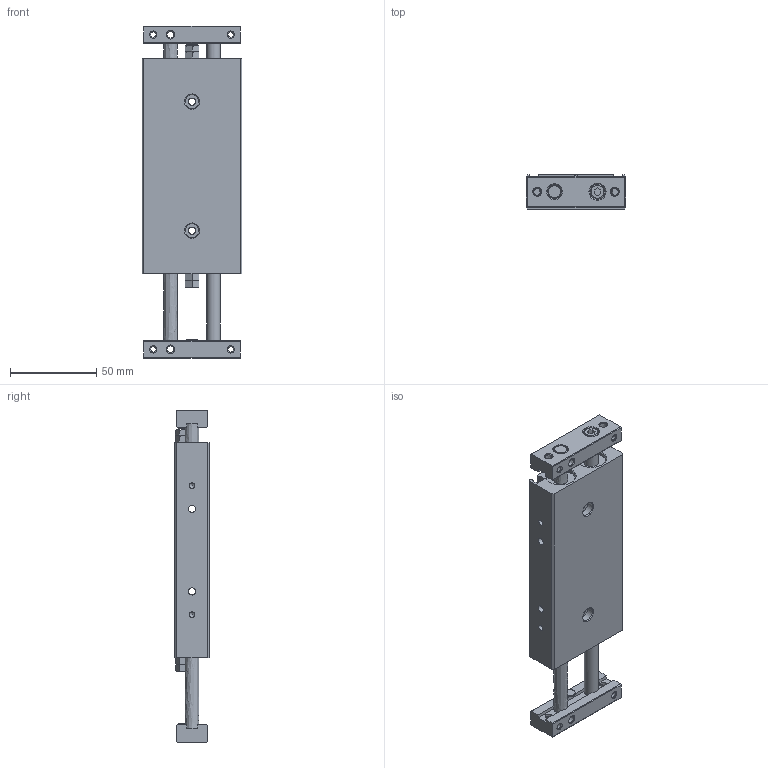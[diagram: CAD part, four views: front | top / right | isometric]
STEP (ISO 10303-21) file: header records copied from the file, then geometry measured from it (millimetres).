
FILE_DESCRIPTION((''),'2;1');
FILE_NAME('I:\3D電子目錄\氣缸\STX\STX\STX16\STX16x30.stp','2007-10-01T17:16:48',('Administrator'),(''),'Autodesk Inventor 11','Autodesk Inventor 11','');
FILE_SCHEMA(('AUTOMOTIVE_DESIGN { 1 0 10303 214 1 1 1 1 }'));
Length unit declared in the file: millimetre
Products named in the file (1): STX16
Bounding box: 58 x 20 x 193 mm (x, y, z)
Volume: 154350.3 mm3; surface area: 40176.8 mm2
Topology: 1 solids, 1 shells, 267 faces, 674 edges, 423 vertices
Faces by surface type: plane 130, cone 76, bspline 36, cylinder 21, torus 4
Full cylindrical faces by diameter (mm): 3.242 x2, 6 x2, 8 x6, 8.2 x2, 8.5 x2, 9 x2, 17 x2, 18 x2
Entity records: 8177 total; most frequent: CARTESIAN_POINT 2631, ORIENTED_EDGE 1088, DIRECTION 1066, EDGE_CURVE 544, EDGE_LOOP 414, AXIS2_PLACEMENT_3D 403, VERTEX_POINT 380, FACE_OUTER_BOUND 266
